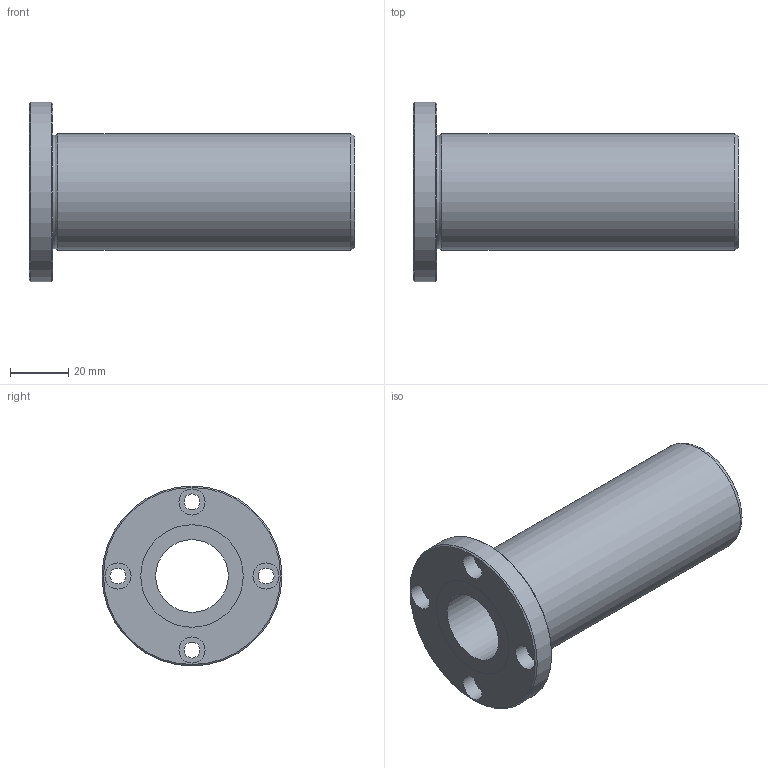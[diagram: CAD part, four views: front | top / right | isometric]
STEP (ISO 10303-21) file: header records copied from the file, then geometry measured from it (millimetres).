
FILE_DESCRIPTION((''),'2;1');
FILE_NAME('D:\製品 (図面)\カタログ用3D\リニアベアリング関連\STEP形式\LFD\LFD25.stp','2010-06-03T09:21:26',('Tsuchiya'),(''),'Autodesk Inventor 10','Autodesk Inventor 10','');
FILE_SCHEMA(('AUTOMOTIVE_DESIGN { 1 0 10303 214 1 1 1 1 }'));
Length unit declared in the file: millimetre
Products named in the file (1): LFD25
Bounding box: 112 x 62 x 62 mm (x, y, z)
Volume: 97968.8 mm3; surface area: 28961.4 mm2
Topology: 1 solids, 1 shells, 26 faces, 47 edges, 30 vertices
Faces by surface type: cylinder 13, plane 9, cone 2, torus 1, bspline 1
Full cylindrical faces by diameter (mm): 5.5 x4, 9 x4, 25 x1, 35.3 x2, 40 x1, 62 x1
Entity records: 665 total; most frequent: CARTESIAN_POINT 149, DIRECTION 112, ORIENTED_EDGE 60, EDGE_LOOP 60, AXIS2_PLACEMENT_3D 56, FACE_BOUND 34, VERTEX_POINT 30, CIRCLE 30
